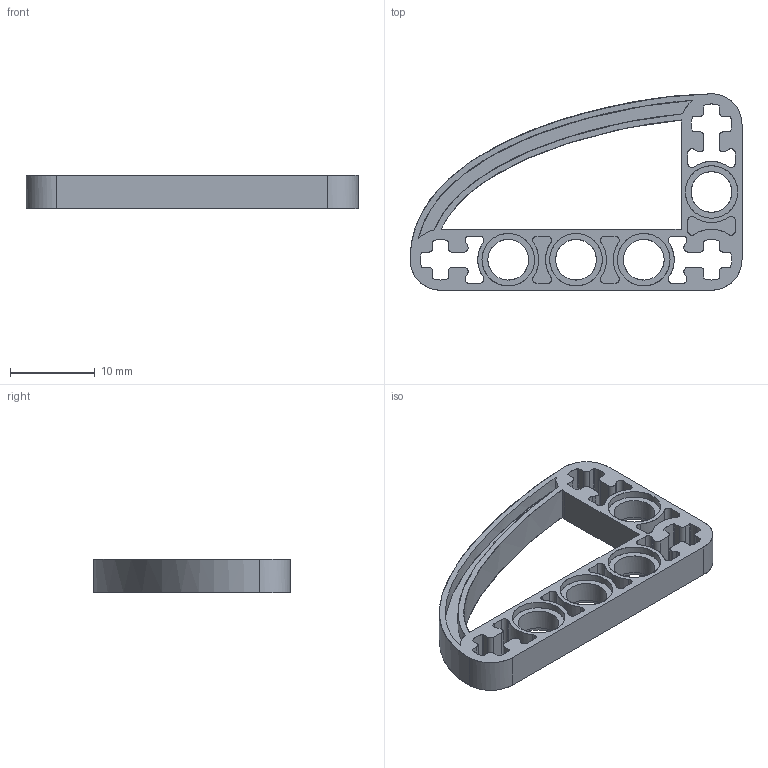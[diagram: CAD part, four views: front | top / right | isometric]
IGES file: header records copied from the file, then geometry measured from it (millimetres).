
Start section: C
Global section: file name: Ye_4128554_AVV.iges; native system: By Siemens PLM Incorporated; preprocessor: XPlus GENERIC/IGES 26.1.183; author: Author; organization: Title; date: 20250722.000715; units: millimetre
Bounding box: 39.2 x 23.2 x 4 mm (x, y, z)
Surface area: 2439.9 mm2 (no closed solid volume)
Topology: 0 solids, 0 shells, 213 faces, 1323 edges, 1323 vertices
Faces by surface type: bspline 213
